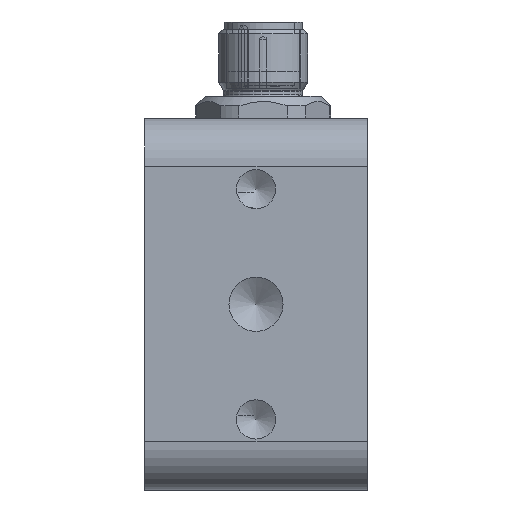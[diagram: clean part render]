
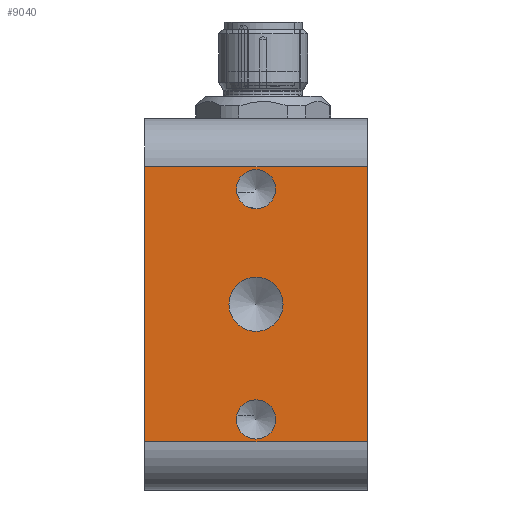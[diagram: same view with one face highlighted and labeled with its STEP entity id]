
A CAD part, left-side view. The second image highlights one B-rep face of the part: STEP entity #9040.
In plain terms, the highlighted planar face has unit normal (-1, 0, 0).
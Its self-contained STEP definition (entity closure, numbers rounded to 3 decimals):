
#417=FACE_BOUND('',#1753,.T.);
#418=FACE_BOUND('',#1754,.T.);
#419=FACE_BOUND('',#1755,.T.);
#629=PLANE('',#9948);
#1151=FACE_OUTER_BOUND('',#1752,.T.);
#1752=EDGE_LOOP('',(#8108,#8109,#8110,#8111));
#1753=EDGE_LOOP('',(#8112));
#1754=EDGE_LOOP('',(#8113));
#1755=EDGE_LOOP('',(#8114));
#2179=LINE('',#17005,#2803);
#2187=LINE('',#17176,#2811);
#2378=LINE('',#17913,#3002);
#2379=LINE('',#17915,#3003);
#2803=VECTOR('',#11337,1000.);
#2811=VECTOR('',#11505,1000.);
#3002=VECTOR('',#12216,1000.);
#3003=VECTOR('',#12219,1000.);
#3516=CIRCLE('',#9949,2.642);
#3517=CIRCLE('',#9950,2.642);
#3518=CIRCLE('',#9951,3.642);
#4089=VERTEX_POINT('',#17002);
#4090=VERTEX_POINT('',#17004);
#4172=VERTEX_POINT('',#17173);
#4173=VERTEX_POINT('',#17175);
#4388=VERTEX_POINT('',#17923);
#4389=VERTEX_POINT('',#17925);
#4390=VERTEX_POINT('',#17927);
#5226=EDGE_CURVE('',#4089,#4090,#2179,.T.);
#5312=EDGE_CURVE('',#4173,#4172,#2187,.T.);
#5654=EDGE_CURVE('',#4089,#4173,#2378,.T.);
#5655=EDGE_CURVE('',#4172,#4090,#2379,.T.);
#5659=EDGE_CURVE('',#4388,#4388,#3516,.T.);
#5660=EDGE_CURVE('',#4389,#4389,#3517,.T.);
#5661=EDGE_CURVE('',#4390,#4390,#3518,.T.);
#8108=ORIENTED_EDGE('',*,*,#5312,.T.);
#8109=ORIENTED_EDGE('',*,*,#5655,.T.);
#8110=ORIENTED_EDGE('',*,*,#5226,.F.);
#8111=ORIENTED_EDGE('',*,*,#5654,.T.);
#8112=ORIENTED_EDGE('',*,*,#5659,.F.);
#8113=ORIENTED_EDGE('',*,*,#5660,.F.);
#8114=ORIENTED_EDGE('',*,*,#5661,.F.);
#9040=ADVANCED_FACE('',(#1151,#417,#418,#419),#629,.F.);
#9948=AXIS2_PLACEMENT_3D('',#17922,#12229,#12230);
#9949=AXIS2_PLACEMENT_3D('',#17924,#12231,#12232);
#9950=AXIS2_PLACEMENT_3D('',#17926,#12233,#12234);
#9951=AXIS2_PLACEMENT_3D('',#17928,#12235,#12236);
#11337=DIRECTION('',(0.,0.,-1.));
#11505=DIRECTION('',(0.,0.,-1.));
#12216=DIRECTION('',(0.,1.,0.));
#12219=DIRECTION('',(0.,-1.,0.));
#12229=DIRECTION('center_axis',(1.,0.,0.));
#12230=DIRECTION('ref_axis',(0.,0.,-1.));
#12231=DIRECTION('center_axis',(-1.,0.,0.));
#12232=DIRECTION('ref_axis',(0.,0.,1.));
#12233=DIRECTION('center_axis',(-1.,0.,0.));
#12234=DIRECTION('ref_axis',(0.,0.,1.));
#12235=DIRECTION('center_axis',(-1.,0.,0.));
#12236=DIRECTION('ref_axis',(0.,0.,1.));
#17002=CARTESIAN_POINT('',(-625.,0.,18.5));
#17004=CARTESIAN_POINT('',(-625.,0.,-18.5));
#17005=CARTESIAN_POINT('',(-625.,0.,25.));
#17173=CARTESIAN_POINT('',(-625.,30.,-18.5));
#17175=CARTESIAN_POINT('',(-625.,30.,18.5));
#17176=CARTESIAN_POINT('',(-625.,30.,25.));
#17913=CARTESIAN_POINT('',(-625.,30.,18.5));
#17915=CARTESIAN_POINT('',(-625.,0.,-18.5));
#17922=CARTESIAN_POINT('Origin',(-625.,0.,25.));
#17923=CARTESIAN_POINT('',(-625.,15.,-18.142));
#17924=CARTESIAN_POINT('Origin',(-625.,15.,-15.5));
#17925=CARTESIAN_POINT('',(-625.,15.,12.858));
#17926=CARTESIAN_POINT('Origin',(-625.,15.,15.5));
#17927=CARTESIAN_POINT('',(-625.,15.,-3.642));
#17928=CARTESIAN_POINT('Origin',(-625.,15.,0.));
